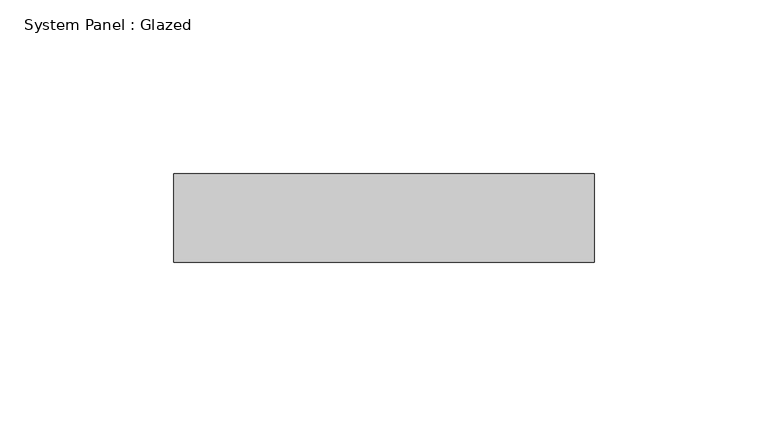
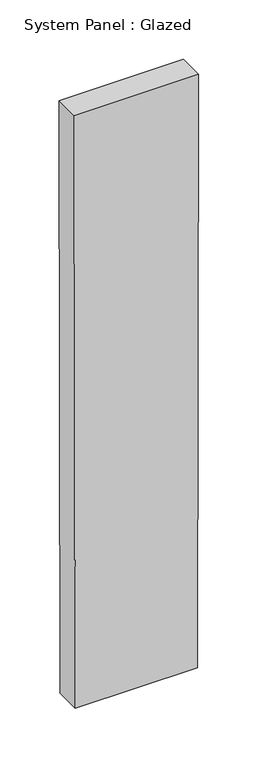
"""IFC4 building model written with IfcOpenShell, lengths in millimetres: plate geometry, System Panel : Glazed."""

from ifc_helpers import new_model, si_unit, frame, origin, place, context, project, spatial, polyline, outline, extrude, source, transform, mapped, element, save


def system_panel_glazed_78cb0e89(model_context):
    return source(origin(), model_context, "Body", "SweptSolid", [
        extrude(outline(polyline([(0.0, -59.6498695), (0.0, 59.6498695), (609.599568, 60.3755725), (609.599568, -60.3755725), (0.0, -59.6498695)])), frame((0.0, -44.45, 0.0), z_axis=(0.0, 1.0, 0.0), x_axis=(0.0, 0.0, 1.0)), (0.0, 0.0, 1.0), 25.4),
    ])


if __name__ == "__main__":
    model = new_model("IFC4")
    model_context = context("Model", 3, world=origin())
    ifc_project = project(units=[si_unit("LENGTHUNIT", "METRE", prefix="MILLI")], contexts=[model_context])
    site = spatial("IfcSite", under=ifc_project)
    building = spatial("IfcBuilding", under=site)
    placement = place(None, origin())
    system_panel_glazed_shape = system_panel_glazed_78cb0e89(model_context)
    element("IfcPlate", 1, ObjectType="System Panel : Glazed", at=placement, inside=building, context=model_context, shape_type="MappedRepresentation", body=[
        mapped(system_panel_glazed_shape, transform((0.0, 0.0, 0.0), x_axis=(1.0, 0.0, 0.0), y_axis=(0.0, 1.0, 0.0), z_axis=(0.0, 0.0, 1.0))),
    ])
    save(model, "model.ifc")
